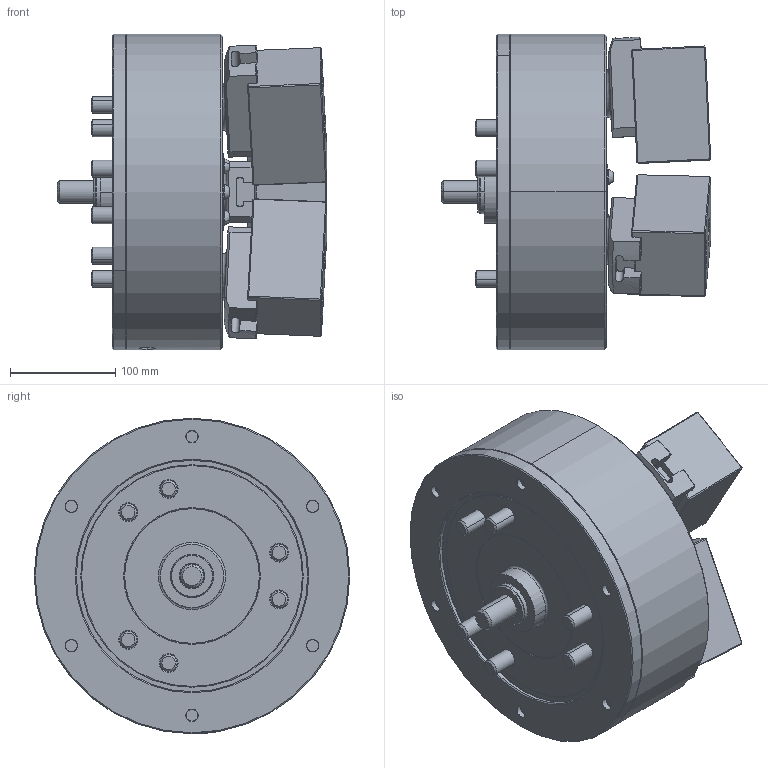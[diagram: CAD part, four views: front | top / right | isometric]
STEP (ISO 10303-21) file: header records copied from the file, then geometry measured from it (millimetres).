
FILE_DESCRIPTION (( 'STEP AP214' ), '1' );
FILE_NAME ('PW-12_UC.STEP', '2025-08-18T06:58:52', ( '' ), ( '' ), 'SwSTEP 2.0', 'SolidWorks 2022', '' );
FILE_SCHEMA (( 'AUTOMOTIVE_DESIGN' ));
Length unit declared in the file: millimetre
Products named in the file (6): PW-12_UC; 61P420193; 0030116025; 結合_OD; 61P323264; 0030116105
Assembly tree (19 placements, depth 2):
  PW-12_UC
    61P323264  x3
    61P420193  x3
    0030116025  x6
    0030116105  x6
    結合_OD
Bounding box: 256.15 x 300 x 300 mm (x, y, z)
Volume: 9048440.5 mm3; surface area: 605086.8 mm2
Topology: 19 solids, 21 shells, 1632 faces, 4024 edges, 2550 vertices
Faces by surface type: plane 814, cone 334, cylinder 255, bspline 185, torus 36, sphere 8
Entity records: 46914 total; most frequent: CARTESIAN_POINT 17222, ORIENTED_EDGE 6424, DIRECTION 5417, EDGE_CURVE 3212, VERTEX_POINT 2060, AXIS2_PLACEMENT_3D 1816, VECTOR 1785, LINE 1785
